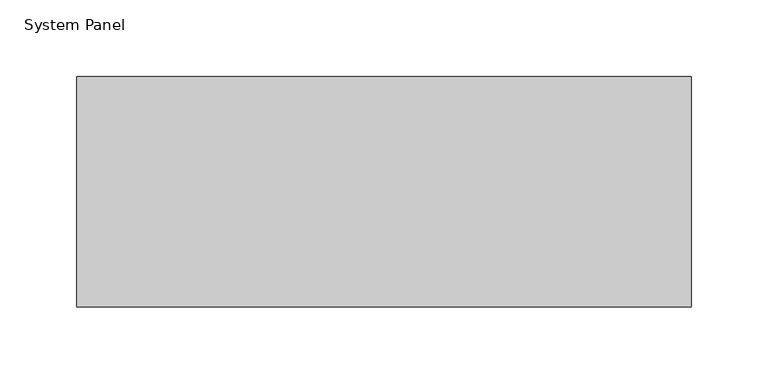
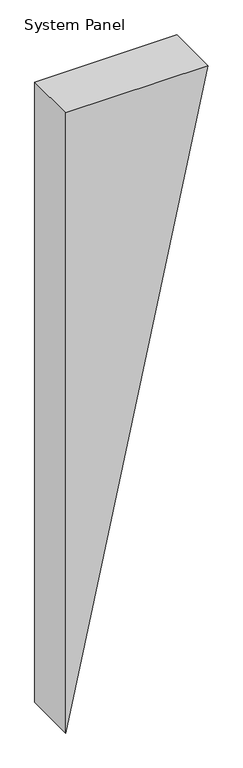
"""IFC4 building model written with IfcOpenShell, lengths in millimetres: plate geometry, System Panel : MetecnoPanel_150mm_Plain_Surfmist."""

from ifc_helpers import new_model, si_unit, frame, origin, place, context, project, spatial, polyline, outline, extrude, source, transform, mapped, element, save


def system_panel_cb7dd1a5(model_context):
    return source(origin(), model_context, "Body", "SweptSolid", [
        extrude(outline(polyline([(1839.9852118, -200.0), (0.0, -200.0), (1839.9852118, 200.0), (1839.9852118, -200.0)])), frame((0.0, -150.0, 0.0), z_axis=(0.0, 1.0, 0.0), x_axis=(0.0, 0.0, 1.0)), (0.0, 0.0, 1.0), 150.0),
    ])


if __name__ == "__main__":
    model = new_model("IFC4")
    model_context = context("Model", 3, world=origin())
    ifc_project = project(units=[si_unit("LENGTHUNIT", "METRE", prefix="MILLI")], contexts=[model_context])
    site = spatial("IfcSite", under=ifc_project)
    building = spatial("IfcBuilding", under=site)
    placement = place(None, origin())
    system_panel_shape = system_panel_cb7dd1a5(model_context)
    element("IfcPlate", 1, ObjectType="System Panel : MetecnoPanel_150mm_Plain_Surfmist", at=placement, inside=building, context=model_context, shape_type="MappedRepresentation", body=[
        mapped(system_panel_shape, transform((0.0, 0.0, 0.0), x_axis=(1.0, 0.0, 0.0), y_axis=(0.0, 1.0, 0.0), z_axis=(0.0, 0.0, 1.0))),
    ])
    save(model, "model.ifc")
